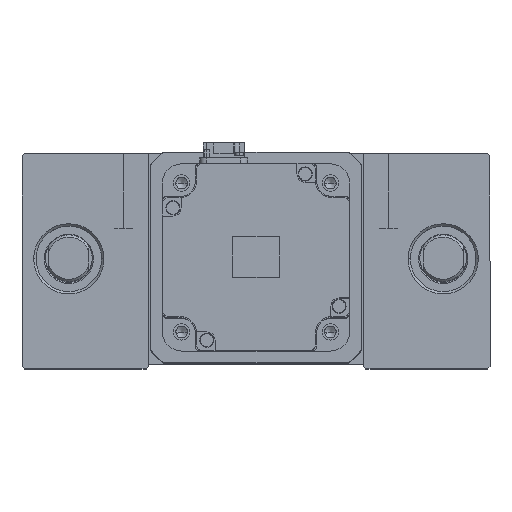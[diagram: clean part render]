
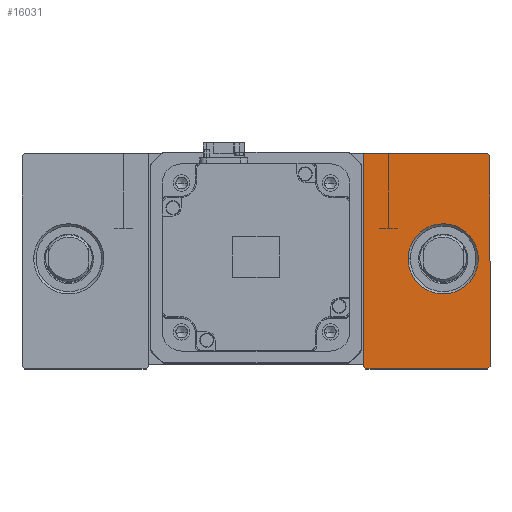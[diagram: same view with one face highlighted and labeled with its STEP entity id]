
A CAD part, top view. The second image highlights one B-rep face of the part: STEP entity #16031.
In plain terms, the highlighted planar face has unit normal (0, 0, 1).
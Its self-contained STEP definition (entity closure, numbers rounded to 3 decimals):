
#1137 = CARTESIAN_POINT ( 'NONE',  ( 46., 45., 35. ) ) ;
#1772 = CARTESIAN_POINT ( 'NONE',  ( 80., 0., 35. ) ) ;
#2145 = LINE ( 'NONE', #14175, #41040 ) ;
#2423 = FACE_BOUND ( 'NONE', #17539, .T. ) ;
#2567 = DIRECTION ( 'NONE',  ( 1., 0., 0. ) ) ;
#2678 = VERTEX_POINT ( 'NONE', #39263 ) ;
#2803 = CIRCLE ( 'NONE', #23224, 15. ) ;
#3299 = VERTEX_POINT ( 'NONE', #32114 ) ;
#4836 = VERTEX_POINT ( 'NONE', #18310 ) ;
#4871 = AXIS2_PLACEMENT_3D ( 'NONE', #7138, #11071, #38212 ) ;
#5721 = DIRECTION ( 'NONE',  ( 1., 0., 0. ) ) ;
#6070 = VECTOR ( 'NONE', #16668, 1000. ) ;
#6810 = VERTEX_POINT ( 'NONE', #19401 ) ;
#7138 = CARTESIAN_POINT ( 'NONE',  ( 0., 0., 35. ) ) ;
#7937 = FACE_OUTER_BOUND ( 'NONE', #38816, .T. ) ;
#8504 = ORIENTED_EDGE ( 'NONE', *, *, #9476, .T. ) ;
#9476 = EDGE_CURVE ( 'NONE', #21845, #46395, #2803, .T. ) ;
#9874 = LINE ( 'NONE', #37940, #30504 ) ;
#10156 = CARTESIAN_POINT ( 'NONE',  ( 100., -46., 35. ) ) ;
#11071 = DIRECTION ( 'NONE',  ( 0., 0., 1. ) ) ;
#12034 = DIRECTION ( 'NONE',  ( 0.707, -0.707, 0. ) ) ;
#12712 = ORIENTED_EDGE ( 'NONE', *, *, #36227, .T. ) ;
#12934 = ORIENTED_EDGE ( 'NONE', *, *, #16298, .T. ) ;
#13242 = CARTESIAN_POINT ( 'NONE',  ( 65., 0., 35. ) ) ;
#13449 = ORIENTED_EDGE ( 'NONE', *, *, #35387, .T. ) ;
#13459 = EDGE_CURVE ( 'NONE', #18334, #6810, #24054, .T. ) ;
#13732 = ORIENTED_EDGE ( 'NONE', *, *, #13459, .T. ) ;
#14175 = CARTESIAN_POINT ( 'NONE',  ( 73., -73., 35. ) ) ;
#14876 = DIRECTION ( 'NONE',  ( 1., 0., 0. ) ) ;
#15640 = EDGE_CURVE ( 'NONE', #37585, #2678, #34108, .T. ) ;
#16031 = ADVANCED_FACE ( 'NONE', ( #2423, #7937 ), #34328, .T. ) ;
#16211 = CARTESIAN_POINT ( 'NONE',  ( 100., 45., 35. ) ) ;
#16298 = EDGE_CURVE ( 'NONE', #6810, #4836, #16441, .T. ) ;
#16441 = LINE ( 'NONE', #1137, #6070 ) ;
#16668 = DIRECTION ( 'NONE',  ( 0., -1., 0. ) ) ;
#17083 = EDGE_CURVE ( 'NONE', #3299, #22154, #25162, .T. ) ;
#17539 = EDGE_LOOP ( 'NONE', ( #13449, #8504 ) ) ;
#17892 = CIRCLE ( 'NONE', #29830, 15. ) ;
#18310 = CARTESIAN_POINT ( 'NONE',  ( 46., -46., 35. ) ) ;
#18334 = VERTEX_POINT ( 'NONE', #33373 ) ;
#18427 = CARTESIAN_POINT ( 'NONE',  ( 46., 45., 35. ) ) ;
#18631 = DIRECTION ( 'NONE',  ( -0.707, 0.707, 0. ) ) ;
#19401 = CARTESIAN_POINT ( 'NONE',  ( 46., 45., 35. ) ) ;
#21845 = VERTEX_POINT ( 'NONE', #13242 ) ;
#21999 = DIRECTION ( 'NONE',  ( 0.707, 0.707, 0. ) ) ;
#22154 = VERTEX_POINT ( 'NONE', #34734 ) ;
#22523 = CARTESIAN_POINT ( 'NONE',  ( 46., -47., 35. ) ) ;
#22710 = VECTOR ( 'NONE', #14876, 1000. ) ;
#22968 = ORIENTED_EDGE ( 'NONE', *, *, #15640, .T. ) ;
#23224 = AXIS2_PLACEMENT_3D ( 'NONE', #49123, #25932, #2567 ) ;
#23870 = DIRECTION ( 'NONE',  ( 0., 1., 0. ) ) ;
#24054 = LINE ( 'NONE', #18427, #33137 ) ;
#24710 = ORIENTED_EDGE ( 'NONE', *, *, #42795, .T. ) ;
#25162 = LINE ( 'NONE', #22523, #22710 ) ;
#25932 = DIRECTION ( 'NONE',  ( 0., 0., -1. ) ) ;
#26463 = LINE ( 'NONE', #31353, #48288 ) ;
#29018 = DIRECTION ( 'NONE',  ( 0., 0., -1. ) ) ;
#29830 = AXIS2_PLACEMENT_3D ( 'NONE', #1772, #29018, #5721 ) ;
#30504 = VECTOR ( 'NONE', #18631, 1000. ) ;
#31353 = CARTESIAN_POINT ( 'NONE',  ( 0., 0., 35. ) ) ;
#32062 = ORIENTED_EDGE ( 'NONE', *, *, #17083, .T. ) ;
#32114 = CARTESIAN_POINT ( 'NONE',  ( 47., -47., 35. ) ) ;
#33137 = VECTOR ( 'NONE', #49406, 1000. ) ;
#33373 = CARTESIAN_POINT ( 'NONE',  ( 99., 45., 35. ) ) ;
#34108 = LINE ( 'NONE', #16211, #45601 ) ;
#34328 = PLANE ( 'NONE',  #4871 ) ;
#34734 = CARTESIAN_POINT ( 'NONE',  ( 99., -47., 35. ) ) ;
#35387 = EDGE_CURVE ( 'NONE', #46395, #21845, #17892, .T. ) ;
#36227 = EDGE_CURVE ( 'NONE', #2678, #18334, #9874, .T. ) ;
#37585 = VERTEX_POINT ( 'NONE', #10156 ) ;
#37751 = CARTESIAN_POINT ( 'NONE',  ( 95., 0., 35. ) ) ;
#37940 = CARTESIAN_POINT ( 'NONE',  ( 72., 72., 35. ) ) ;
#38212 = DIRECTION ( 'NONE',  ( 1., 0., 0. ) ) ;
#38816 = EDGE_LOOP ( 'NONE', ( #12934, #39613, #32062, #24710, #22968, #12712, #13732 ) ) ;
#39263 = CARTESIAN_POINT ( 'NONE',  ( 100., 44., 35. ) ) ;
#39613 = ORIENTED_EDGE ( 'NONE', *, *, #49830, .T. ) ;
#41040 = VECTOR ( 'NONE', #21999, 1000. ) ;
#42795 = EDGE_CURVE ( 'NONE', #22154, #37585, #2145, .T. ) ;
#45601 = VECTOR ( 'NONE', #23870, 1000. ) ;
#46395 = VERTEX_POINT ( 'NONE', #37751 ) ;
#48288 = VECTOR ( 'NONE', #12034, 1000. ) ;
#49123 = CARTESIAN_POINT ( 'NONE',  ( 80., 0., 35. ) ) ;
#49406 = DIRECTION ( 'NONE',  ( -1., 0., 0. ) ) ;
#49830 = EDGE_CURVE ( 'NONE', #4836, #3299, #26463, .T. ) ;
